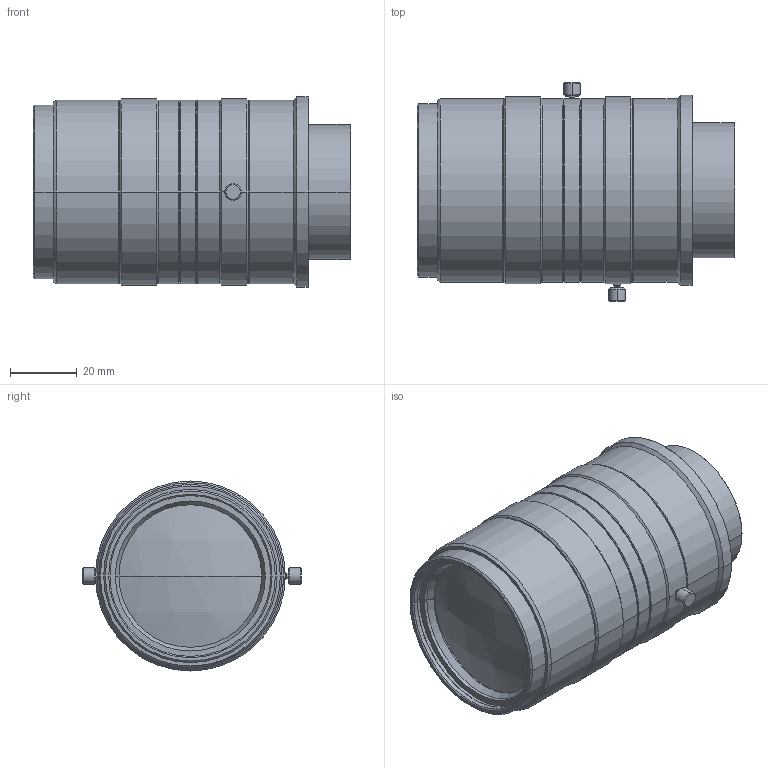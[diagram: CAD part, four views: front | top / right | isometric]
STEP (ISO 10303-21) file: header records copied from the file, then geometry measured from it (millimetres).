
FILE_DESCRIPTION (( 'STEP AP203' ), '1' );
FILE_NAME ('VS-HX7535.STEP', '2020-09-10T04:56:51', ( '' ), ( '' ), 'SwSTEP 2.0', 'SolidWorks 2020', '' );
FILE_SCHEMA (( 'CONFIG_CONTROL_DESIGN' ));
Length unit declared in the file: millimetre
Products named in the file (1): VS-HX7535
Bounding box: 95.3 x 65.6 x 57 mm (x, y, z)
Volume: 199421.6 mm3; surface area: 25147.4 mm2
Topology: 1 solids, 1 shells, 129 faces, 262 edges, 152 vertices
Faces by surface type: cone 58, cylinder 48, plane 19, sphere 4
Entity records: 3487 total; most frequent: DIRECTION 660, CARTESIAN_POINT 612, ORIENTED_EDGE 524, AXIS2_PLACEMENT_3D 276, EDGE_CURVE 262, VERTEX_POINT 152, CIRCLE 146, EDGE_LOOP 146
